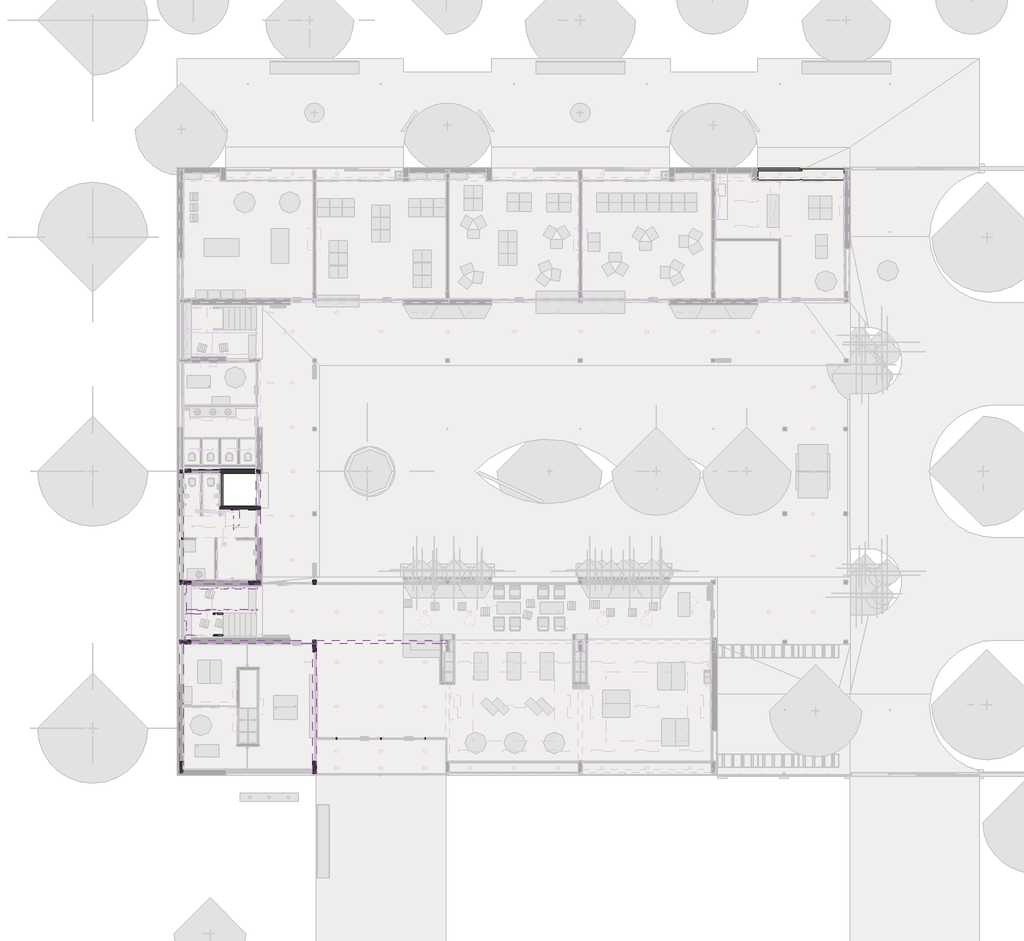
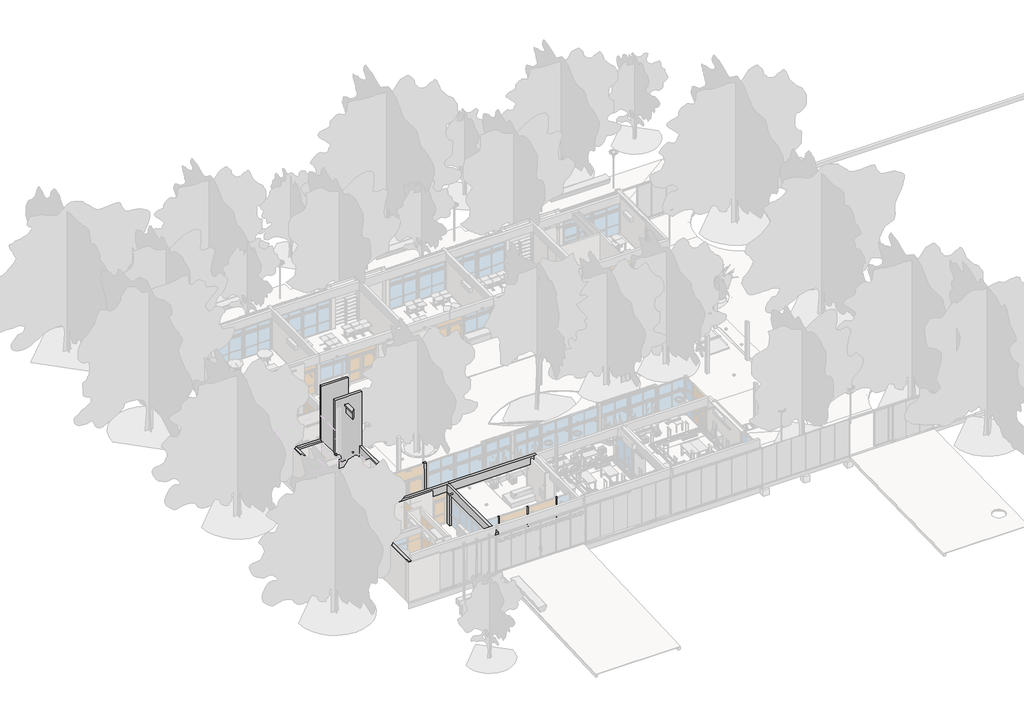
# One storey, part 12 of 22: 34 beams, 14 columns, 1 slab.
"""IFC4 building model written with IfcOpenShell, lengths in millimetres."""

from ifc_helpers import new_model, si_unit, point, frame, frame_2d, origin, origin_with_axes, place, context, project, spatial, polyline, circle_curve, trimmed, segment, composite_curve, outline, extrude, faceted_brep, transform, mapped, element, save
from components import perfil_upn_120_pet_55000a03, perfil_upn_120_pet_2a6b5f43, perfil_upn_120_pet_31115f7d, perfil_upn_120_pet_00277be9, perfil_upn_120_pet_e11cd0c3, perfil_upn_120_pet_56031ed0, perfil_upn_120_pet_017f4d01, perfil_upn_120_pet_e785cb7a

model = new_model("IFC4")

# Units and contexts
model_context = context("Model", 3, world=origin())
ifc_project = project(units=[si_unit("LENGTHUNIT", "METRE", prefix="MILLI")], contexts=[model_context])

# Site, building, storey
site = spatial("IfcSite", under=ifc_project)
building = spatial("IfcBuilding", under=site)
storey = spatial("IfcBuildingStorey", under=building, Name="PLanta baja", Elevation=0.0)

# Beams
placement = place(None, origin())
element("IfcBeam", 1, ObjectType="ARES-I-HA-Viga con aleta-PET : Viga pretil-15x75cm-aleta12x15cm-PET", at=placement, inside=storey, context=model_context, shape_type="Brep", body=[
    faceted_brep([(6034.4126343, 13970.2304035, 7010.0), (6034.4126343, 12960.2304035, 7010.0), (6024.4126343, 12950.2304035, 7020.0), (6024.4126343, 13970.2304035, 7020.0), (6014.4126343, 12940.2304035, 7010.0), (6014.4126343, 13970.2304035, 7010.0), (6004.4126343, 12930.2304035, 7010.0), (6004.4126343, 13500.2304035, 7010.0), (6004.4126343, 13850.2304035, 7010.0), (6004.4126343, 13970.2304035, 7010.0), (6004.4126343, 13970.2304035, 7160.0), (6004.4126343, 12930.2304035, 7160.0), (6004.4126343, 13500.2304035, 7160.0), (6004.4126343, 13850.2304035, 7160.0), (6274.4126343, 13970.2304035, 7160.0), (6274.4126343, 13200.2304035, 7160.0), (6274.4126343, 13850.2304035, 7160.0), (6274.4126343, 13200.2304035, 6410.0), (6274.4126343, 13970.2304035, 6410.0), (6274.4126343, 13970.2304035, 7010.0), (6124.4126343, 13050.2304035, 6410.0), (6124.4126343, 13970.2304035, 6410.0), (6124.4126343, 13050.2304035, 6570.0), (6124.4126343, 13050.2304035, 7010.0), (6124.4126343, 13970.2304035, 7010.0), (6124.4126343, 13970.2304035, 6570.0)], [[[0, 1, 2, 3]], [[3, 2, 4, 5]], [[5, 4, 6, 7, 8, 9]], [[10, 9, 8, 7, 6, 11, 12, 13]], [[14, 10, 13, 12, 11, 15, 16]], [[17, 18, 19, 14, 16, 15]], [[18, 17, 20, 21]], [[21, 20, 22, 23, 24, 25]], [[1, 0, 24, 23]], [[0, 3, 5, 9, 10, 14, 19, 18, 21, 25, 24]], [[1, 23, 22, 20, 17, 15, 11, 6, 4, 2]]]),
])
perfil_upn_120_pet_shape = perfil_upn_120_pet_55000a03(model_context)
element("IfcBeam", 2, ObjectType="ARES-I-AC-UPN-Perfil acero-PET : Perfil UPN-120-PET", at=placement, inside=storey, context=model_context, shape_type="MappedRepresentation", body=[
    mapped(perfil_upn_120_pet_shape, transform((3910.6625244, 8576.2304035, 1673.8421053), x_axis=(-1.0, 0.0, 0.0), y_axis=(0.0, -1.0, 0.0), z_axis=(0.0, 0.0, 1.0))),
])
perfil_upn_120_pet_2_shape = perfil_upn_120_pet_2a6b5f43(model_context)
element("IfcBeam", 3, ObjectType="ARES-I-AC-UPN-Perfil acero-PET : Perfil UPN-120-PET", at=placement, inside=storey, context=model_context, shape_type="MappedRepresentation", body=[
    mapped(perfil_upn_120_pet_2_shape, transform((5740.2815783, 8576.2304035, 782.5278227), x_axis=(0.8547743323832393, 0.0, -0.518999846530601), y_axis=(0.0, 1.0, 0.0), z_axis=(0.5189998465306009, 0.0, 0.8547743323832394))),
])
perfil_upn_120_pet_3_shape = perfil_upn_120_pet_31115f7d(model_context)
element("IfcBeam", 4, ObjectType="ARES-I-AC-UPN-Perfil acero-PET : Perfil UPN-120-PET", at=placement, inside=storey, context=model_context, shape_type="MappedRepresentation", body=[
    mapped(perfil_upn_120_pet_3_shape, transform((3910.6625244, 7484.2304035, 1673.8421053), x_axis=(-1.0, 0.0, 0.0), y_axis=(0.0, -1.0, 0.0), z_axis=(0.0, 0.0, 1.0))),
])
perfil_upn_120_pet_4_shape = perfil_upn_120_pet_00277be9(model_context)
element("IfcBeam", 5, ObjectType="ARES-I-AC-UPN-Perfil acero-PET : Perfil UPN-120-PET", at=placement, inside=storey, context=model_context, shape_type="MappedRepresentation", body=[
    mapped(perfil_upn_120_pet_4_shape, transform((5740.2815783, 7484.2304035, 782.5278227), x_axis=(0.8547743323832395, 0.0, -0.5189998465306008), y_axis=(0.0, 1.0, 0.0), z_axis=(0.5189998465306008, 0.0, 0.8547743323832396))),
])
perfil_upn_120_pet_5_shape = perfil_upn_120_pet_e11cd0c3(model_context)
element("IfcBeam", 6, ObjectType="ARES-I-AC-UPN-Perfil acero-PET : Perfil UPN-120-PET", at=placement, inside=storey, context=model_context, shape_type="MappedRepresentation", body=[
    mapped(perfil_upn_120_pet_5_shape, transform((4217.871391, 9881.2304035, 1673.8421053), x_axis=(-1.0, 0.0, 0.0), y_axis=(0.0, -1.0, 0.0), z_axis=(0.0, 0.0, 1.0))),
])
perfil_upn_120_pet_6_shape = perfil_upn_120_pet_56031ed0(model_context)
element("IfcBeam", 7, ObjectType="ARES-I-AC-UPN-Perfil acero-PET : Perfil UPN-120-PET", at=placement, inside=storey, context=model_context, shape_type="MappedRepresentation", body=[
    mapped(perfil_upn_120_pet_6_shape, transform((6062.1716203, 9881.2304035, 2367.281948), x_axis=(0.8547306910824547, 0.0, 0.5190717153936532), y_axis=(0.0, 1.0000000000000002, 0.0), z_axis=(-0.5190717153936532, 0.0, 0.8547306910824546))),
])
perfil_upn_120_pet_7_shape = perfil_upn_120_pet_017f4d01(model_context)
element("IfcBeam", 8, ObjectType="ARES-I-AC-UPN-Perfil acero-PET : Perfil UPN-120-PET", at=placement, inside=storey, context=model_context, shape_type="MappedRepresentation", body=[
    mapped(perfil_upn_120_pet_7_shape, transform((4112.4902739, 8789.2304035, 1673.8421053), x_axis=(-1.0, 0.0, 0.0), y_axis=(0.0, -1.0, 0.0), z_axis=(0.0, 0.0, 1.0))),
])
perfil_upn_120_pet_8_shape = perfil_upn_120_pet_e785cb7a(model_context)
element("IfcBeam", 9, ObjectType="ARES-I-AC-UPN-Perfil acero-PET : Perfil UPN-120-PET", at=placement, inside=storey, context=model_context, shape_type="MappedRepresentation", body=[
    mapped(perfil_upn_120_pet_8_shape, transform((5899.0301815, 8789.2304035, 2268.207342), x_axis=(0.8547306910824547, 0.0, 0.5190717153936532), y_axis=(0.0, 1.0000000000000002, 0.0), z_axis=(-0.5190717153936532, 0.0, 0.8547306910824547))),
])
element("IfcBeam", 10, ObjectType="ARES-I-AC-UPN-Perfil acero-PET : Perfil UPN-140-PET", at=placement, inside=storey, context=model_context, shape_type="SweptSolid", body=[
    extrude(outline(composite_curve([segment(polyline([(1733.8421053, 3549.7173693), (1733.8421053, 3489.7173693), (1730.8580797, 3489.7173693)]), True, "CONTINUOUS"), segment(trimmed(circle_curve(frame_2d((1730.8580797, 3494.7173693)), 5.0), [point((1730.8580797, 3489.7173693))], [point((1725.8740034, 3494.3186432))], False, "CARTESIAN"), True, "CONTINUOUS"), segment(polyline([(1725.8740034, 3494.3186432), (1722.7383091, 3533.5148215)]), True, "CONTINUOUS"), segment(trimmed(circle_curve(frame_2d((1712.7701563, 3532.7173693)), 10.0), [point((1722.7383091, 3533.5148215))], [point((1712.7701563, 3542.7173693))], True, "CARTESIAN"), True, "CONTINUOUS"), segment(polyline([(1712.7701563, 3542.7173693), (1614.9140542, 3542.7173693)]), True, "CONTINUOUS"), segment(trimmed(circle_curve(frame_2d((1614.9140542, 3532.7173693)), 10.0), [point((1614.9140542, 3542.7173693))], [point((1604.9459014, 3533.5148215))], True, "CARTESIAN"), True, "CONTINUOUS"), segment(polyline([(1604.9459014, 3533.5148215), (1601.8102072, 3494.3186432)]), True, "CONTINUOUS"), segment(trimmed(circle_curve(frame_2d((1596.8261308, 3494.7173693)), 5.0), [point((1601.8102072, 3494.3186432))], [point((1596.8261308, 3489.7173693))], False, "CARTESIAN"), True, "CONTINUOUS"), segment(polyline([(1596.8261308, 3489.7173693), (1593.8421053, 3489.7173693), (1593.8421053, 3549.7173693), (1733.8421053, 3549.7173693)]), True, "CONTINUOUS")], self_intersect=False)), frame((0.0, 7219.2304035, 0.0), z_axis=(0.0, 1.0, 0.0), x_axis=(0.0, 0.0, 1.0)), (0.0, 0.0, 1.0), 2901.0),
])
element("IfcBeam", 11, ObjectType="ARES-I-HA-Viga rectangular-PET : Viga-15x112cm-PET", at=placement, inside=storey, context=model_context, shape_type="Brep", body=[
    faceted_brep([(7218.7173694, 14170.2304035, -80.0), (7368.7173694, 14170.2304035, -80.0), (7368.7173694, 15870.2304035, -80.0), (7218.7173694, 15870.2304035, -80.0), (7218.7173694, 14170.2304035, -1200.0), (7218.7173694, 14170.2304035, -1100.0), (7218.7173694, 15870.2304035, -1100.0), (7218.7173694, 15870.2304035, -1200.0), (7368.7173694, 14170.2304035, -1200.0), (7368.7173694, 15870.2304035, -1200.0)], [[[0, 1, 2, 3]], [[4, 5, 0, 3, 6, 7]], [[8, 4, 7, 9]], [[1, 8, 9, 2]], [[2, 9, 7, 6, 3]], [[1, 0, 5, 4, 8]]]),
])
element("IfcBeam", 12, ObjectType="ARES-I-HA-Viga rectangular-PET : Viga-15x112cm-PET", at=placement, inside=storey, context=model_context, shape_type="Brep", body=[
    faceted_brep([(5418.7173693, 15870.2304035, -80.0), (5268.7173693, 15870.2304035, -80.0), (5268.7173693, 14170.2304035, -80.0), (5418.7173693, 14170.2304035, -80.0), (5268.7173693, 15870.2304035, -300.0), (5268.7173693, 15870.2304035, -430.0), (5268.7173693, 15870.2304035, -1200.0), (5268.7173693, 14170.2304035, -1200.0), (5268.7173693, 14170.2304035, -430.0), (5268.7173693, 14170.2304035, -300.0), (5418.7173693, 14170.2304035, -1200.0), (5418.7173693, 15870.2304035, -1200.0), (5418.7173693, 15870.2304035, -1100.0), (5418.7173693, 14170.2304035, -1100.0)], [[[0, 1, 2, 3]], [[2, 1, 4, 5, 6, 7, 8, 9]], [[10, 7, 6, 11]], [[11, 12, 0, 3, 13, 10]], [[1, 0, 12, 11, 6, 5, 4]], [[3, 2, 9, 8, 7, 10, 13]]]),
])
element("IfcBeam", 13, ObjectType="ARES-I-HA-Viga rectangular-PET : Viga-15x36cm-PET", at=placement, inside=storey, context=model_context, shape_type="Brep", body=[
    faceted_brep([(10288.7173694, 3843.5637368, -50.0), (10288.7173694, 3693.5637368, -50.0), (13563.7173693, 3693.5637368, -50.0), (13713.7173693, 3693.5637368, -50.0), (16988.7173694, 3693.5637368, -50.0), (16988.7173694, 3843.5637368, -50.0), (13713.7173693, 3843.5637368, -50.0), (13563.7173693, 3843.5637368, -50.0), (10288.7173694, 3693.5637368, -410.0), (13563.7173693, 3693.5637368, -410.0), (13713.7173693, 3693.5637368, -410.0), (16988.7173694, 3693.5637368, -410.0), (16988.7173694, 3693.5637368, -160.0), (10288.7173694, 3693.5637368, -160.0), (10288.7173694, 3843.5637368, -410.0), (13563.7173693, 3843.5637368, -410.0), (13713.7173693, 3843.5637368, -410.0), (16988.7173694, 3843.5637368, -410.0), (10288.7173694, 3843.5637368, -160.0), (16988.7173694, 3843.5637368, -160.0)], [[[0, 1, 2, 3, 4, 5, 6, 7]], [[8, 9, 10, 11, 12, 4, 3, 2, 1, 13]], [[8, 14, 15, 16, 17, 11, 10, 9]], [[17, 16, 15, 14, 18, 0, 7, 6, 5, 19]], [[1, 0, 18, 14, 8, 13]], [[5, 4, 12, 11, 17, 19]]]),
])
element("IfcBeam", 14, ObjectType="ARES-I-HA-Viga rectangular-PET : Viga-15x36cm-PET", at=placement, inside=storey, context=model_context, shape_type="Brep", body=[
    faceted_brep([(13713.7173693, 3693.5637368, -50.0), (13563.7173693, 3693.5637368, -50.0), (13563.7173693, 520.2304035, -50.0), (13713.7173693, 520.2304035, -50.0), (13563.7173693, 3693.5637368, -160.0), (13563.7173693, 3693.5637368, -410.0), (13563.7173693, 520.2304035, -410.0), (13563.7173693, 520.2304035, -160.0), (13713.7173693, 3693.5637368, -410.0), (13713.7173693, 520.2304035, -410.0), (13713.7173693, 520.2304035, -160.0), (13713.7173693, 3693.5637368, -160.0)], [[[0, 1, 2, 3]], [[2, 1, 4, 5, 6, 7]], [[5, 8, 9, 6]], [[0, 3, 10, 9, 8, 11]], [[8, 5, 4, 1, 0, 11]], [[3, 2, 7, 6, 9, 10]]]),
    faceted_brep([(13563.7173693, 3843.5637368, -410.0), (13713.7173693, 3843.5637368, -410.0), (13713.7173693, 3843.5637368, -160.0), (13713.7173693, 3843.5637368, -50.0), (13563.7173693, 3843.5637368, -50.0), (13563.7173693, 3843.5637368, -160.0), (13563.7173693, 7020.2304035, -50.0), (13563.7173693, 7020.2304035, -160.0), (13563.7173693, 7020.2304035, -410.0), (13713.7173693, 7020.2304035, -410.0), (13713.7173693, 7020.2304035, -160.0), (13713.7173693, 7020.2304035, -50.0)], [[[0, 1, 2, 3, 4, 5]], [[4, 6, 7, 8, 0, 5]], [[1, 0, 8, 9]], [[1, 9, 10, 11, 3, 2]], [[4, 3, 11, 6]], [[9, 8, 7, 6, 11, 10]]]),
])
element("IfcBeam", 15, ObjectType="ARES-I-HA-Viga rectangular-PET : Viga-15x36cm-PET", at=placement, inside=storey, context=model_context, shape_type="Brep", body=[
    faceted_brep([(10088.7173694, 3693.5637368, -50.0), (10088.7173694, 3843.5637368, -50.0), (6813.7173693, 3843.5637368, -50.0), (6663.7173693, 3843.5637368, -50.0), (3388.7173693, 3843.5637368, -50.0), (3388.7173693, 3693.5637368, -50.0), (6663.7173693, 3693.5637368, -50.0), (6813.7173693, 3693.5637368, -50.0), (3388.7173693, 3693.5637368, -410.0), (3398.7173694, 3693.5637368, -410.0), (6663.7173693, 3693.5637368, -410.0), (6813.7173693, 3693.5637368, -410.0), (10088.7173694, 3693.5637368, -410.0), (10088.7173694, 3693.5637368, -160.0), (3388.7173693, 3693.5637368, -160.0), (3388.7173693, 3693.5637368, -241.3422496), (10088.7173694, 3843.5637368, -410.0), (3388.7173693, 3843.5637368, -410.0), (3398.7173694, 3843.5637368, -410.0), (6663.7173693, 3843.5637368, -410.0), (6813.7173693, 3843.5637368, -410.0), (3388.7173693, 3843.5637368, -241.3422496), (3388.7173693, 3843.5637368, -160.0), (10088.7173694, 3843.5637368, -160.0)], [[[0, 1, 2, 3, 4, 5, 6, 7]], [[8, 9, 10, 11, 12, 13, 0, 7, 6, 5, 14, 15]], [[16, 12, 11, 10, 9, 8, 17, 18, 19, 20]], [[16, 20, 19, 18, 17, 21, 22, 4, 3, 2, 1, 23]], [[1, 0, 13, 12, 16, 23]], [[5, 4, 22, 21, 17, 8, 15, 14]]]),
])
element("IfcBeam", 16, ObjectType="ARES-I-HA-Viga rectangular-PET : Viga-15x36cm-PET", at=placement, inside=storey, context=model_context, shape_type="Brep", body=[
    faceted_brep([(6813.7173693, 3693.5637368, -50.0), (6663.7173693, 3693.5637368, -50.0), (6663.7173693, 520.2304035, -50.0), (6813.7173693, 520.2304035, -50.0), (6663.7173693, 3693.5637368, -160.0), (6663.7173693, 3693.5637368, -410.0), (6663.7173693, 520.2304035, -410.0), (6663.7173693, 520.2304035, -160.0), (6813.7173693, 3693.5637368, -410.0), (6813.7173693, 520.2304035, -410.0), (6813.7173693, 520.2304035, -160.0), (6813.7173693, 3693.5637368, -160.0)], [[[0, 1, 2, 3]], [[2, 1, 4, 5, 6, 7]], [[5, 8, 9, 6]], [[0, 3, 10, 9, 8, 11]], [[8, 5, 4, 1, 0, 11]], [[3, 2, 7, 6, 9, 10]]]),
    faceted_brep([(6663.7173693, 3843.5637368, -410.0), (6813.7173693, 3843.5637368, -410.0), (6813.7173693, 3843.5637368, -160.0), (6813.7173693, 3843.5637368, -50.0), (6663.7173693, 3843.5637368, -50.0), (6663.7173693, 3843.5637368, -160.0), (6663.7173693, 7020.2304035, -50.0), (6663.7173693, 7020.2304035, -160.0), (6663.7173693, 7020.2304035, -410.0), (6813.7173693, 7020.2304035, -410.0), (6813.7173693, 7020.2304035, -160.0), (6813.7173693, 7020.2304035, -50.0)], [[[0, 1, 2, 3, 4, 5]], [[4, 6, 7, 8, 0, 5]], [[1, 0, 8, 9]], [[1, 9, 10, 11, 3, 2]], [[4, 3, 11, 6]], [[9, 8, 7, 6, 11, 10]]]),
])
element("IfcBeam", 17, ObjectType="ARES-I-HA-Viga rectangular-PET : Viga-20x36cm-PET", at=placement, inside=storey, context=model_context, shape_type="Brep", body=[
    faceted_brep([(10088.7173694, 10120.2304035, -50.0), (10088.7173694, 10320.2304035, -50.0), (7368.7173694, 10320.2304035, -50.0), (7368.7173694, 10120.2304035, -50.0), (7368.7173694, 10120.2304035, -410.0), (10088.7173694, 10120.2304035, -410.0), (10088.7173694, 10120.2304035, -160.0), (7368.7173694, 10120.2304035, -160.0), (10088.7173694, 10320.2304035, -410.0), (7368.7173694, 10320.2304035, -410.0), (10088.7173694, 10320.2304035, -80.0), (10088.7173694, 10320.2304035, -190.0), (7368.7173694, 10320.2304035, -190.0), (7368.7173694, 10320.2304035, -80.0)], [[[0, 1, 2, 3]], [[4, 5, 6, 0, 3, 7]], [[8, 5, 4, 9]], [[1, 10, 11, 8, 9, 12, 13, 2]], [[5, 8, 11, 10, 1, 0, 6]], [[9, 4, 7, 3, 2, 13, 12]]]),
])
element("IfcBeam", 18, ObjectType="ARES-I-HA-Viga rectangular-PET : Viga-20x40cm-PET", at=placement, inside=storey, context=model_context, shape_type="Brep", body=[
    faceted_brep([(5268.7173694, 13970.2304035, -300.0), (5268.7173694, 14170.2304035, -300.0), (5268.1214583, 14170.2304035, -300.0), (3388.7173693, 14170.2304035, -300.0), (3388.7173693, 13970.2304035, -300.0), (5268.1214583, 13970.2304035, -300.0), (5268.7173694, 13970.2304035, -700.0), (3388.7173693, 13970.2304035, -430.0), (3388.7173693, 13970.2304035, -700.0), (5268.7173694, 14170.2304035, -700.0), (3388.7173693, 14170.2304035, -700.0), (5268.1214583, 14170.2304035, -700.0), (5268.7173694, 14170.2304035, -430.0), (3388.7173693, 14170.2304035, -430.0)], [[[0, 1, 2, 3, 4, 5]], [[6, 0, 5, 4, 7, 8]], [[9, 6, 8, 10, 11]], [[1, 12, 9, 11, 10, 13, 3, 2]], [[1, 0, 6, 9, 12]], [[4, 3, 13, 10, 8, 7]]]),
])
element("IfcBeam", 19, ObjectType="ARES-I-HA-Viga rectangular-PET : Viga-20x40cm-PET", at=placement, inside=storey, context=model_context, shape_type="Brep", body=[
    faceted_brep([(5268.7173693, 15870.2304035, -300.0), (5268.7173693, 16070.2304035, -300.0), (3788.7173694, 16070.2304035, -300.0), (3398.7173693, 16070.2304035, -300.0), (3388.7173694, 16070.2304035, -300.0), (3388.7173693, 15870.2304035, -300.0), (3788.7173694, 15870.2304035, -300.0), (5268.1214583, 15870.2304035, -300.0), (3388.7173693, 15870.2304035, -430.0), (3388.7173693, 15870.2304035, -700.0), (5268.1214583, 15870.2304035, -700.0), (5268.7173693, 15870.2304035, -700.0), (5268.7173693, 15870.2304035, -430.0), (5268.7173693, 16070.2304035, -700.0), (3388.7173693, 16070.2304035, -700.0), (3398.7173693, 16070.2304035, -700.0), (5268.7173693, 16070.2304035, -430.0), (3388.7173693, 16070.2304035, -430.0)], [[[0, 1, 2, 3, 4, 5, 6, 7]], [[0, 7, 6, 5, 8, 9, 10, 11, 12]], [[13, 11, 10, 9, 14, 15]], [[1, 16, 13, 15, 14, 17, 4, 3, 2]], [[1, 0, 12, 11, 13, 16]], [[5, 4, 17, 14, 9, 8]]]),
])
element("IfcBeam", 20, ObjectType="ARES-I-HA-Viga rectangular-PET : Viga-20x48cm-PET", at=placement, inside=storey, context=model_context, shape_type="Brep", body=[
    faceted_brep([(7368.7173694, 13970.2304035, -80.0), (7168.7173694, 13970.2304035, -80.0), (7168.7173694, 10320.2304035, -80.0), (7368.7173694, 10320.2304035, -80.0), (7368.7173694, 13670.2304035, -80.0), (7368.7173694, 13870.2304035, -80.0), (7168.7173694, 13970.2304035, -300.0), (7168.7173694, 13970.2304035, -430.0), (7168.7173694, 13970.2304035, -560.0), (7168.7173694, 10320.2304035, -560.0), (7168.7173694, 10320.2304035, -430.0), (7168.7173694, 10320.2304035, -300.0), (7343.7173694, 13970.2304035, -560.0), (7368.7173694, 13970.2304035, -560.0), (7368.7173694, 10320.2304035, -560.0), (7368.7173694, 13970.2304035, -540.0), (7368.7173694, 13970.2304035, -221.0235731), (7368.7173694, 10320.2304035, -190.0)], [[[0, 1, 2, 3, 4, 5]], [[1, 6, 7, 8, 9, 10, 11, 2]], [[8, 12, 13, 14, 9]], [[13, 15, 16, 0, 5, 4, 3, 17, 14]], [[3, 2, 11, 10, 9, 14, 17]], [[0, 16, 15, 13, 12, 8, 7, 6, 1]]]),
])
element("IfcBeam", 21, ObjectType="ARES-I-HA-Viga rectangular-PET : Viga-20x50cm-PET", at=placement, inside=storey, context=model_context, shape_type="Brep", body=[
    faceted_brep([(10288.7173694, 10120.2304035, -50.0), (10088.7173694, 10120.2304035, -50.0), (10088.7173694, 7220.2304035, -50.0), (10288.7173694, 7220.2304035, -50.0), (10088.7173694, 10120.2304035, -160.0), (10088.7173694, 10120.2304035, -510.0), (10088.7173694, 10120.2304035, -550.0), (10088.7173694, 7220.2304035, -550.0), (10088.7173694, 7220.2304035, -510.0), (10088.7173694, 7220.2304035, -160.0), (10288.7173694, 7220.2304035, -550.0), (10288.7173694, 10120.2304035, -550.0), (10288.7173694, 7220.2304035, -160.0), (10288.7173694, 7220.2304035, -510.0), (10288.7173694, 10120.2304035, -510.0), (10288.7173694, 10120.2304035, -160.0)], [[[0, 1, 2, 3]], [[2, 1, 4, 5, 6, 7, 8, 9]], [[10, 7, 6, 11]], [[0, 3, 12, 13, 10, 11, 14, 15]], [[7, 10, 13, 12, 3, 2, 9, 8]], [[1, 0, 15, 14, 11, 6, 5, 4]]]),
])
element("IfcBeam", 22, ObjectType="ARES-I-HA-Viga rectangular-PET : Viga-20x51cm-PET", at=placement, inside=storey, context=model_context, shape_type="Brep", body=[
    faceted_brep([(7168.7173694, 7220.2304035, -50.0), (7368.7173694, 7220.2304035, -50.0), (7368.7173694, 10120.2304035, -50.0), (7168.7173694, 10120.2304035, -50.0), (7168.7173694, 7220.2304035, -560.0), (7168.7173694, 7220.2304035, -450.0), (7168.7173694, 10120.2304035, -450.0), (7168.7173694, 10120.2304035, -560.0), (7368.7173694, 7220.2304035, -560.0), (7368.7173694, 10120.2304035, -560.0), (7368.7173694, 10120.2304035, -510.0), (7368.7173694, 10120.2304035, -160.0), (7368.7173694, 7220.2304035, -160.0), (7368.7173694, 7220.2304035, -510.0)], [[[0, 1, 2, 3]], [[4, 5, 0, 3, 6, 7]], [[8, 4, 7, 9]], [[8, 9, 10, 11, 2, 1, 12, 13]], [[4, 8, 13, 12, 1, 0, 5]], [[7, 6, 3, 2, 11, 10, 9]]]),
])
element("IfcBeam", 23, ObjectType="ARES-I-HA-Viga rectangular-PET : Viga-20x65cm-PET", at=placement, inside=storey, context=model_context, shape_type="Brep", body=[
    faceted_brep([(10288.7173694, 7080.2304035, -50.0), (10088.7173694, 7080.2304035, -50.0), (10088.7173694, 7020.2304035, -50.0), (10088.7173694, 3843.5637368, -50.0), (10088.7173694, 3693.5637368, -50.0), (10088.7173694, 520.2304035, -50.0), (10288.7173694, 520.2304035, -50.0), (10288.7173694, 3693.5637368, -50.0), (10288.7173694, 3843.5637368, -50.0), (10288.7173694, 7020.2304035, -50.0), (10088.7173694, 7080.2304035, -700.0), (10088.7173694, 7020.2304035, -700.0), (10088.7173694, 520.2304035, -700.0), (10088.7173694, 520.2304035, -510.0), (10088.7173694, 520.2304035, -160.0), (10288.7173694, 7080.2304035, -700.0), (10288.7173694, 7020.2304035, -700.0), (10288.7173694, 520.2304035, -700.0), (10288.7173694, 520.2304035, -160.0), (10288.7173694, 520.2304035, -510.0)], [[[0, 1, 2, 3, 4, 5, 6, 7, 8, 9]], [[1, 10, 11, 12, 13, 14, 5, 4, 3, 2]], [[10, 15, 16, 17, 12, 11]], [[15, 0, 9, 8, 7, 6, 18, 19, 17, 16]], [[6, 5, 14, 13, 12, 17, 19, 18]], [[0, 15, 10, 1]]]),
])
element("IfcBeam", 24, ObjectType="ARES-I-HA-Viga rectangular-PET : Viga-20x65cm-PET", at=placement, inside=storey, context=model_context, shape_type="Brep", body=[
    faceted_brep([(3388.7173694, 10320.2304035, -50.0), (3388.7173694, 10120.2304035, -50.0), (7168.7173694, 10120.2304035, -50.0), (7368.7173694, 10120.2304035, -50.0), (7368.7173694, 10320.2304035, -50.0), (7168.7173694, 10320.2304035, -50.0), (3388.7173694, 10120.2304035, -450.0), (3388.7173694, 10120.2304035, -560.0), (3388.7173694, 10120.2304035, -700.0), (7368.7173694, 10120.2304035, -700.0), (7368.7173694, 10120.2304035, -560.0), (7368.7173694, 10120.2304035, -510.0), (7368.7173694, 10120.2304035, -410.0), (3388.7173694, 10320.2304035, -700.0), (7168.7173694, 10320.2304035, -700.0), (7368.7173694, 10320.2304035, -700.0), (3388.7173694, 10320.2304035, -430.0), (3388.7173694, 10320.2304035, -300.0), (7368.7173694, 10320.2304035, -80.0), (7368.7173694, 10320.2304035, -410.0), (7368.7173694, 10320.2304035, -540.0), (7368.7173694, 10320.2304035, -560.0)], [[[0, 1, 2, 3, 4, 5]], [[1, 6, 7, 8, 9, 10, 11, 12, 3, 2]], [[8, 13, 14, 15, 9]], [[13, 16, 17, 0, 5, 4, 18, 19, 20, 21, 15, 14]], [[0, 17, 16, 13, 8, 7, 6, 1]], [[4, 3, 12, 11, 10, 9, 15, 21, 20, 19, 18]]]),
])
element("IfcBeam", 25, ObjectType="ARES-I-HA-Viga rectangular-PET : Viga-20x66cm-PET", at=placement, inside=storey, context=model_context, shape_type="Brep", body=[
    faceted_brep([(3188.7173693, 7220.2304035, 3260.0), (3188.7173693, 7020.2304035, 3260.0), (3388.7173693, 7020.2304035, 3260.0), (3788.7173693, 7020.2304035, 3260.0), (10088.7173694, 7020.2304035, 3260.0), (10288.7173694, 7020.2304035, 3260.0), (10288.7173694, 7220.2304035, 3260.0), (10088.7173694, 7220.2304035, 3260.0), (3838.7173693, 7220.2304035, 3260.0), (3788.7173693, 7220.2304035, 3260.0), (3388.7173693, 7220.2304035, 3260.0), (3188.7173693, 7020.2304035, 2600.0), (3388.7173693, 7020.2304035, 2600.0), (3788.7173693, 7020.2304035, 2600.0), (7168.7173694, 7020.2304035, 2600.0), (8938.7173694, 7020.2304035, 2600.0), (10088.7173694, 7020.2304035, 2600.0), (10288.7173694, 7020.2304035, 2600.0), (10288.7173694, 7020.2304035, 3100.0), (3188.7173693, 7020.2304035, 3100.0), (3188.7173693, 7220.2304035, 2600.0), (3788.7173693, 7220.2304035, 2600.0), (7168.7173694, 7220.2304035, 2600.0), (8938.7173694, 7220.2304035, 2600.0), (10088.7173694, 7220.2304035, 2600.0), (10288.7173694, 7220.2304035, 2600.0), (3188.7173693, 7220.2304035, 3100.0), (10288.7173694, 7220.2304035, 3100.0)], [[[0, 1, 2, 3, 4, 5, 6, 7, 8, 9, 10]], [[11, 12, 13, 14, 15, 16, 17, 18, 5, 4, 3, 2, 1, 19]], [[11, 20, 21, 22, 23, 24, 25, 17, 16, 15, 14, 13, 12]], [[25, 24, 23, 22, 21, 20, 26, 0, 10, 9, 8, 7, 6, 27]], [[1, 0, 26, 20, 11, 19]], [[6, 5, 18, 17, 25, 27]]]),
])
element("IfcBeam", 26, ObjectType="ARES-I-HA-Viga rectangular-PET : Viga-20x66cm-PET", at=placement, inside=storey, context=model_context, shape_type="Brep", body=[
    faceted_brep([(17188.7173694, 7020.2304035, 3260.0), (17188.7173694, 7220.2304035, 3260.0), (16988.7173694, 7220.2304035, 3260.0), (10288.7173694, 7220.2304035, 3260.0), (10288.7173694, 7020.2304035, 3260.0), (16988.7173694, 7020.2304035, 3260.0), (17188.7173694, 7020.2304035, 2600.0), (17188.7173694, 7020.2304035, 3100.0), (10288.7173694, 7020.2304035, 3100.0), (10288.7173694, 7020.2304035, 2600.0), (16703.0966893, 7020.2304035, 2600.0), (16818.0966893, 7020.2304035, 2600.0), (16988.7173694, 7020.2304035, 2600.0), (17188.7173694, 7220.2304035, 2600.0), (10288.7173694, 7220.2304035, 2600.0), (16703.0966893, 7220.2304035, 2600.0), (16818.0966893, 7220.2304035, 2600.0), (16988.7173694, 7220.2304035, 2600.0), (17188.7173694, 7220.2304035, 3100.0)], [[[0, 1, 2, 3, 4, 5]], [[6, 7, 0, 5, 4, 8, 9, 10, 11, 12]], [[13, 6, 12, 11, 10, 9, 14, 15, 16, 17]], [[1, 18, 13, 17, 16, 15, 14, 3, 2]], [[1, 0, 7, 6, 13, 18]], [[4, 3, 14, 9, 8]]]),
])
element("IfcBeam", 27, ObjectType="ARES-I-HA-Viga rectangular-PET : Viga-20x66cm-PET", at=placement, inside=storey, context=model_context, shape_type="Brep", body=[
    faceted_brep([(3388.7173693, 320.2304035, 3260.0), (3188.7173693, 320.2304035, 3260.0), (3188.7173693, 320.2304035, 3100.0), (3188.7173693, 320.2304035, 2600.0), (3388.7173693, 320.2304035, 2600.0), (3388.7173693, 320.2304035, 3100.0), (3388.7173693, 520.2304035, 3260.0), (3388.7173693, 920.2304035, 3260.0), (3388.7173693, 3685.2304035, 3260.0), (3388.7173693, 4015.2304035, 3260.0), (3388.7173693, 7020.2304035, 3260.0), (3188.7173693, 7020.2304035, 3260.0), (3188.7173693, 920.2304035, 3260.0), (3188.7173693, 7020.2304035, 2600.0), (3188.7173693, 4919.6164813, 2600.0), (3188.7173693, 920.2304035, 2600.0), (3388.7173693, 7020.2304035, 2600.0), (3388.7173693, 4919.6164813, 2600.0), (3388.7173693, 920.2304035, 2600.0), (3388.7173693, 7020.2304035, 3100.0)], [[[0, 1, 2, 3, 4, 5]], [[1, 0, 6, 7, 8, 9, 10, 11, 12]], [[2, 1, 12, 11, 13, 14, 15, 3]], [[4, 3, 15, 14, 13, 16, 17, 18]], [[5, 4, 18, 17, 16, 19, 10, 9, 8, 7, 6, 0]], [[11, 10, 19, 16, 13]]]),
])
element("IfcBeam", 28, ObjectType="ARES-I-HA-Viga rectangular-PET : Viga-20x66cm-PET", at=placement, inside=storey, context=model_context, shape_type="Brep", body=[
    faceted_brep([(10088.7173694, 320.2304035, 3260.0), (10288.7173694, 320.2304035, 3260.0), (10288.7173694, 520.2304035, 3260.0), (10288.7173694, 920.2304035, 3260.0), (10288.7173694, 6620.2304035, 3260.0), (10288.7173694, 7020.2304035, 3260.0), (10088.7173694, 7020.2304035, 3260.0), (10088.7173694, 6620.2304035, 3260.0), (10088.7173694, 920.2304035, 3260.0), (10088.7173694, 520.2304035, 3260.0), (10088.7173694, 320.2304035, 2600.0), (10088.7173694, 320.2304035, 3100.0), (10088.7173694, 7020.2304035, 3100.0), (10088.7173694, 7020.2304035, 2600.0), (10288.7173694, 320.2304035, 2600.0), (10288.7173694, 7020.2304035, 2600.0), (10288.7173694, 320.2304035, 3100.0), (10288.7173694, 7020.2304035, 3100.0)], [[[0, 1, 2, 3, 4, 5, 6, 7, 8, 9]], [[10, 11, 0, 9, 8, 7, 6, 12, 13]], [[14, 10, 13, 15]], [[1, 16, 14, 15, 17, 5, 4, 3, 2]], [[1, 0, 11, 10, 14, 16]], [[6, 5, 17, 15, 13, 12]]]),
])
element("IfcBeam", 29, ObjectType="ARES-I-HA-Viga rectangular-PET : Viga-20x66cm-PET", at=placement, inside=storey, context=model_context, shape_type="Brep", body=[
    faceted_brep([(3188.7173693, 10120.2304035, 3260.0), (3388.7173693, 10120.2304035, 3260.0), (3388.7173693, 10320.2304035, 3260.0), (3388.7173693, 15870.2304035, 3260.0), (3388.7173693, 16070.2304035, 3260.0), (3188.7173693, 16070.2304035, 3260.0), (3188.7173693, 15870.2304035, 3260.0), (3188.7173693, 10320.2304035, 3260.0), (3188.7173693, 16070.2304035, 3100.0), (3188.7173693, 16070.2304035, 2600.0), (3188.7173693, 15870.2304035, 2600.0), (3188.7173693, 13670.2304035, 2600.0), (3188.7173693, 10320.2304035, 2600.0), (3188.7173693, 10120.2304035, 2600.0), (3188.7173693, 10120.2304035, 3100.0), (3388.7173693, 10120.2304035, 2600.0), (3388.7173693, 16070.2304035, 2600.0), (3388.7173693, 15870.2304035, 2600.0), (3388.7173693, 13670.2304035, 2600.0), (3388.7173693, 10320.2304035, 2600.0), (3388.7173693, 16070.2304035, 3100.0), (3388.7173693, 10120.2304035, 3100.0)], [[[0, 1, 2, 3, 4, 5, 6, 7]], [[0, 7, 6, 5, 8, 9, 10, 11, 12, 13, 14]], [[15, 13, 12, 11, 10, 9, 16, 17, 18, 19]], [[15, 19, 18, 17, 16, 20, 4, 3, 2, 1, 21]], [[1, 0, 14, 13, 15, 21]], [[5, 4, 20, 16, 9, 8]]]),
])
element("IfcBeam", 30, ObjectType="ARES-I-HA-Viga rectangular-PET : Viga-20x66cm-PET", at=placement, inside=storey, context=model_context, shape_type="Brep", body=[
    faceted_brep([(7368.7173693, 10320.2304035, 3260.0), (7168.7173693, 10320.2304035, 3260.0), (7168.7173693, 10320.2304035, 3100.0), (7168.7173693, 10320.2304035, 2600.0), (7368.7173693, 10320.2304035, 2600.0), (7368.7173693, 10320.2304035, 3100.0), (7368.7173693, 13970.2304035, 3260.0), (7168.7173693, 13970.2304035, 3260.0), (7168.7173693, 13970.2304035, 3100.0), (7168.7173693, 13970.2304035, 2600.0), (7168.7173693, 12520.2304035, 2600.0), (7168.7173693, 10340.2304035, 2600.0), (7368.7173693, 13970.2304035, 2600.0), (7368.7173693, 12520.2304035, 2600.0), (7368.7173693, 10340.2304035, 2600.0)], [[[0, 1, 2, 3, 4, 5]], [[1, 0, 6, 7]], [[2, 1, 7, 8, 9, 10, 11, 3]], [[4, 3, 11, 10, 9, 12, 13, 14]], [[5, 4, 14, 13, 12, 6, 0]], [[7, 6, 12, 9, 8]]]),
])
element("IfcBeam", 31, ObjectType="ARES-I-HA-Viga rectangular-PET : Viga-20x66cm-PET", at=placement, inside=storey, context=model_context, shape_type="Brep", body=[
    faceted_brep([(7368.7173693, 10120.2304035, 3260.0), (7368.7173693, 10320.2304035, 3260.0), (7168.7173693, 10320.2304035, 3260.0), (6768.7173693, 10320.2304035, 3260.0), (3788.7173693, 10320.2304035, 3260.0), (3388.7173693, 10320.2304035, 3260.0), (3388.7173693, 10120.2304035, 3260.0), (3788.7173693, 10120.2304035, 3260.0), (3838.7173693, 10120.2304035, 3260.0), (6768.7173693, 10120.2304035, 3260.0), (7368.7173693, 10120.2304035, 2600.0), (7368.7173693, 10120.2304035, 3100.0), (3388.7173693, 10120.2304035, 2600.0), (3788.7173693, 10120.2304035, 2600.0), (5076.2173694, 10120.2304035, 2600.0), (6768.7173693, 10120.2304035, 2600.0), (7368.7173693, 10320.2304035, 2600.0), (3388.7173693, 10320.2304035, 2600.0), (3788.7173693, 10320.2304035, 2600.0), (5076.2173694, 10320.2304035, 2600.0), (6768.7173693, 10320.2304035, 2600.0), (7168.7173693, 10320.2304035, 2600.0), (7368.7173693, 10320.2304035, 3100.0), (3388.7173693, 10320.2304035, 3100.0)], [[[0, 1, 2, 3, 4, 5, 6, 7, 8, 9]], [[10, 11, 0, 9, 8, 7, 6, 12, 13, 14, 15]], [[16, 10, 15, 14, 13, 12, 17, 18, 19, 20, 21]], [[2, 1, 22, 16, 21, 20, 19, 18, 17, 23, 5, 4, 3]], [[1, 0, 11, 10, 16, 22]], [[6, 5, 23, 17, 12]]]),
])
element("IfcBeam", 32, ObjectType="ARES-I-HA-Viga rectangular-PET : Viga-20x66cm-PET", at=placement, inside=storey, context=model_context, shape_type="Brep", body=[
    faceted_brep([(5268.7173693, 15870.2304035, 3260.0), (5268.7173693, 16070.2304035, 3260.0), (3788.7173693, 16070.2304035, 3260.0), (3388.7173693, 16070.2304035, 3260.0), (3388.7173693, 15870.2304035, 3260.0), (3788.7173693, 15870.2304035, 3260.0), (5268.7173693, 15870.2304035, 2600.0), (5268.7173693, 15870.2304035, 3100.0), (3388.7173693, 15870.2304035, 3100.0), (3388.7173693, 15870.2304035, 2600.0), (3788.7173694, 15870.2304035, 2600.0), (5268.7173693, 16070.2304035, 2600.0), (5268.7173693, 16040.2304035, 2600.0), (3388.7173693, 16070.2304035, 2600.0), (3788.7173694, 16070.2304035, 2600.0), (5268.7173693, 16070.2304035, 3100.0), (3388.7173693, 16070.2304035, 3100.0)], [[[0, 1, 2, 3, 4, 5]], [[6, 7, 0, 5, 4, 8, 9, 10]], [[11, 12, 6, 10, 9, 13, 14]], [[1, 15, 11, 14, 13, 16, 3, 2]], [[6, 12, 11, 15, 1, 0, 7]], [[4, 3, 16, 13, 9, 8]]]),
])
element("IfcBeam", 33, ObjectType="ARES-I-HA-Viga rectangular-PET : Viga-20x66cm-PET", at=placement, inside=storey, context=model_context, shape_type="Brep", body=[
    faceted_brep([(7168.7173693, 15869.8932813, 3260.0), (7168.7173693, 14170.2304035, 3260.0), (7368.7173693, 14170.2304035, 3260.0), (7368.7173693, 15869.8932813, 3260.0), (7168.7173693, 15869.8932813, 2600.0), (7168.7173693, 14170.2304035, 2600.0), (7368.7173693, 15869.8932813, 2600.0), (7368.7173693, 14170.2304035, 2600.0), (7368.7173693, 14170.2304035, 3100.0), (7368.7173693, 15869.8932813, 3100.0)], [[[0, 1, 2, 3]], [[1, 0, 4, 5]], [[5, 4, 6, 7]], [[3, 2, 8, 7, 6, 9]], [[2, 1, 5, 7, 8]], [[6, 4, 0, 3, 9]]]),
])
element("IfcBeam", 34, ObjectType="ARES-I-HA-Viga rectangular-PET : Viga-30x36cm-PET", at=placement, inside=storey, context=model_context, shape_type="Brep", body=[
    faceted_brep([(14988.7173693, 10120.2304035, -410.0), (14688.7173693, 10120.2304035, -410.0), (14688.7173693, 10120.2304035, -160.0), (14688.7173693, 10120.2304035, -50.0), (14988.7173693, 10120.2304035, -50.0), (14988.7173693, 10120.2304035, -160.0), (14688.7173693, 7220.2304035, -50.0), (14988.7173693, 7220.2304035, -50.0), (14688.7173693, 7220.2304035, -410.0), (14688.7173693, 7220.2304035, -160.0), (14988.7173693, 7220.2304035, -410.0), (14988.7173693, 7220.2304035, -160.0)], [[[0, 1, 2, 3, 4, 5]], [[4, 3, 6, 7]], [[6, 3, 2, 1, 8, 9]], [[1, 0, 10, 8]], [[4, 7, 11, 10, 0, 5]], [[8, 10, 11, 7, 6, 9]]]),
])

# Columns
element("IfcColumn", 35, ObjectType="Parante aluminio : Parante aluminio 75x75 mm", at=placement, inside=storey, context=model_context, shape_type="SweptSolid", body=[
    extrude(outline(polyline([(13676.2173694, 2145.2304035), (13676.2173694, 2070.2304035), (13601.2173694, 2070.2304035), (13601.2173694, 2145.2304035), (13676.2173694, 2145.2304035)])), origin_with_axes(), (0.0, 0.0, 1.0), 3110.0),
])
element("IfcColumn", 36, ObjectType="Parante aluminio : Parante aluminio 75x75 mm", at=placement, inside=storey, context=model_context, shape_type="Brep", body=[
    faceted_brep([(15976.2173693, 2145.2304035, 0.0), (15976.2173693, 2070.2304035, 0.0), (15901.2173693, 2070.2304035, 0.0), (15901.2173693, 2145.2304035, 0.0), (15976.2173693, 2145.2304035, 3110.0), (15976.2173693, 2070.2304035, 3110.0), (15976.2173693, 2070.2304035, 3000.0), (15976.2173693, 2145.2304035, 3000.0), (15901.2173693, 2070.2304035, 3110.0), (15901.2173693, 2145.2304035, 3110.0)], [[[0, 1, 2, 3]], [[4, 5, 6, 1, 0, 7]], [[5, 8, 2, 1, 6]], [[8, 9, 3, 2]], [[9, 4, 7, 0, 3]], [[4, 9, 8, 5]]]),
])
element("IfcColumn", 37, ObjectType="Parante aluminio : Parante aluminio 75x75 mm", at=placement, inside=storey, context=model_context, shape_type="Brep", body=[
    faceted_brep([(11376.2173693, 2145.2304035, 0.0), (11376.2173693, 2070.2304035, 0.0), (11301.2173693, 2070.2304035, 0.0), (11301.2173693, 2145.2304035, 0.0), (11376.2173693, 2145.2304035, 3110.0), (11376.2173693, 2070.2304035, 3110.0), (11301.2173693, 2070.2304035, 3110.0), (11301.2173693, 2070.2304035, 3000.0), (11301.2173693, 2145.2304035, 3110.0), (11301.2173693, 2145.2304035, 3000.0)], [[[0, 1, 2, 3]], [[4, 5, 1, 0]], [[5, 6, 7, 2, 1]], [[6, 8, 9, 3, 2, 7]], [[8, 4, 0, 3, 9]], [[4, 8, 6, 5]]]),
])
element("IfcColumn", 38, ObjectType="Parante aluminio : Parante aluminio 100x100 mm", at=placement, inside=storey, context=model_context, shape_type="SweptSolid", body=[
    extrude(outline(polyline([(3413.7173694, 12520.2304035), (3413.7173694, 12420.2304035), (3313.7173694, 12420.2304035), (3313.7173694, 12520.2304035), (3413.7173694, 12520.2304035)])), origin_with_axes(), (0.0, 0.0, 1.0), 2610.0),
])
element("IfcColumn", 39, ObjectType="PIES-RECT-HA-PET : Pilar HA-20x20cm-PET", at=placement, inside=storey, context=model_context, shape_type="SweptSolid", body=[
    extrude(outline(polyline([(10288.7173693, 10320.2304035), (10288.7173693, 10120.2304035), (10088.7173693, 10120.2304035), (10088.7173693, 10320.2304035), (10288.7173693, 10320.2304035)])), frame((0.0, 0.0, -50.0), z_axis=(0.0, 0.0, 1.0), x_axis=(1.0, 0.0, 0.0)), (0.0, 0.0, 1.0), 3150.0),
])
element("IfcColumn", 40, ObjectType="PIES-RECT-HA-PET : Pilar HA-20x210cm-PET", at=placement, inside=storey, context=model_context, shape_type="Brep", body=[
    faceted_brep([(7368.7173693, 15870.2304035, 7760.0), (7368.7173693, 16070.2304035, 7760.0), (5268.7173693, 16070.2304035, 7760.0), (5268.7173693, 15870.2304035, 7760.0), (7368.7173693, 15870.2304035, -1200.0), (7218.7173694, 15870.2304035, -1200.0), (5418.7173693, 15870.2304035, -1200.0), (5268.7173693, 15870.2304035, -1200.0), (5268.7173693, 16070.2304035, -1200.0), (7368.7173693, 16070.2304035, -1200.0), (7368.7173693, 15870.2304035, 7160.0), (7368.7173693, 15870.2304035, 7010.0), (7368.7173693, 15870.2304035, 6570.0), (7368.7173693, 15870.2304035, 6410.0), (7368.7173693, 15870.2304035, 5910.0), (7368.7173693, 15870.2304035, 3260.0), (7368.7173693, 15870.2304035, 3100.0), (7368.7173693, 15870.2304035, -80.0), (7368.7173693, 16070.2304035, -80.0), (7368.7173693, 16070.2304035, 2600.0), (7368.7173693, 16070.2304035, 3100.0), (7368.7173693, 16070.2304035, 3260.0), (7368.7173693, 16070.2304035, 5910.0), (7368.7173693, 16070.2304035, 6410.0), (7368.7173693, 16070.2304035, 6570.0), (7368.7173693, 16070.2304035, 7010.0), (7368.7173693, 16070.2304035, 7160.0), (5268.7173693, 16070.2304035, -430.0), (5268.7173693, 16070.2304035, -300.0), (5268.7173693, 16070.2304035, -50.0), (5268.7173693, 16070.2304035, 2600.0), (5268.7173693, 16070.2304035, 3100.0), (5268.7173693, 16070.2304035, 3260.0), (5268.7173693, 16070.2304035, 5910.0), (5268.7173693, 16070.2304035, 6410.0), (5268.7173693, 16070.2304035, 6570.0), (5268.7173693, 16070.2304035, 7010.0), (5268.7173693, 16070.2304035, 7160.0), (5268.7173693, 15870.2304035, -430.0), (5268.7173693, 15870.2304035, -300.0), (5268.7173693, 15870.2304035, -80.0), (5268.7173693, 15870.2304035, 2600.0), (5268.7173693, 15870.2304035, 3100.0), (5268.7173693, 15870.2304035, 3260.0), (5268.7173693, 15870.2304035, 5910.0), (5268.7173693, 15870.2304035, 6410.0), (5268.7173693, 15870.2304035, 6570.0), (5268.7173693, 15870.2304035, 7010.0), (5268.7173693, 15870.2304035, 7160.0)], [[[0, 1, 2, 3]], [[4, 5, 6, 7, 8, 9]], [[1, 0, 10, 11, 12, 13, 14, 15, 16, 17, 4, 9, 18, 19, 20, 21, 22, 23, 24, 25, 26]], [[2, 1, 26, 25, 24, 23, 22, 21, 20, 19, 18, 9, 8, 27, 28, 29, 30, 31, 32, 33, 34, 35, 36, 37]], [[3, 2, 37, 36, 35, 34, 33, 32, 31, 30, 29, 28, 27, 8, 7, 38, 39, 40, 41, 42, 43, 44, 45, 46, 47, 48]], [[0, 3, 48, 47, 46, 45, 44, 43, 42, 41, 40, 39, 38, 7, 6, 5, 4, 17, 16, 15, 14, 13, 12, 11, 10]]]),
])
element("IfcColumn", 41, ObjectType="PIES-RECT-HA-PET : Pilar HA-20x210cm-PET", at=placement, inside=storey, context=model_context, shape_type="Brep", body=[
    faceted_brep([(7368.7173694, 13970.2304035, 7760.0), (7368.7173694, 14170.2304035, 7760.0), (5268.7173694, 14170.2304035, 7760.0), (5268.7173694, 13970.2304035, 7760.0), (7368.7173694, 13970.2304035, -1200.0), (5268.7173694, 13970.2304035, -1200.0), (5268.7173694, 14170.2304035, -1200.0), (5418.7173693, 14170.2304035, -1200.0), (7218.7173694, 14170.2304035, -1200.0), (7368.7173694, 14170.2304035, -1200.0), (7368.7173694, 13970.2304035, 7160.0), (7368.7173694, 13970.2304035, 7010.0), (7368.7173694, 13970.2304035, 6570.0), (7368.7173694, 13970.2304035, 6410.0), (7368.7173694, 13970.2304035, 5910.0), (7368.7173694, 13970.2304035, 3260.0), (7368.7173694, 13970.2304035, 3100.0), (7368.7173694, 13970.2304035, 2600.0), (7368.7173694, 13970.2304035, -80.0), (7368.7173694, 13970.2304035, -560.0), (7368.7173694, 14170.2304035, -80.0), (7368.7173694, 14170.2304035, 3100.0), (7368.7173694, 14170.2304035, 3260.0), (7368.7173694, 14170.2304035, 5910.0), (7368.7173694, 14170.2304035, 6410.0), (7368.7173694, 14170.2304035, 6570.0), (7368.7173694, 14170.2304035, 7010.0), (7368.7173694, 14170.2304035, 7160.0), (5268.7173694, 14170.2304035, -700.0), (5268.7173694, 14170.2304035, -430.0), (5268.7173694, 14170.2304035, -300.0), (5268.7173694, 14170.2304035, -80.0), (5268.7173694, 14170.2304035, 3100.0), (5363.7173693, 14170.2304035, 3100.0), (5363.7173693, 14170.2304035, 3260.0), (5268.7173694, 14170.2304035, 3260.0), (5268.7173694, 14170.2304035, 6410.0), (5268.7173694, 14170.2304035, 6570.0), (5268.7173694, 14170.2304035, 7010.0), (5268.7173694, 14170.2304035, 7160.0), (5268.7173694, 13970.2304035, 3260.0), (5268.7173694, 13970.2304035, 6410.0), (5268.7173694, 13970.2304035, 6570.0), (5268.7173694, 13970.2304035, 7010.0), (5268.7173694, 13970.2304035, 7160.0), (5363.7173693, 13970.2304035, 3260.0), (5363.7173693, 13970.2304035, 3100.0), (5268.7173694, 13970.2304035, 3100.0), (5268.7173694, 13970.2304035, -49.984323), (5268.7173694, 13970.2304035, -80.0), (5268.7173694, 13970.2304035, -300.0), (5268.7173694, 13970.2304035, -430.0), (5268.7173694, 13970.2304035, -700.0)], [[[0, 1, 2, 3]], [[4, 5, 6, 7, 8, 9]], [[1, 0, 10, 11, 12, 13, 14, 15, 16, 17, 18, 19, 4, 9, 20, 21, 22, 23, 24, 25, 26, 27]], [[2, 1, 27, 26, 25, 24, 23, 22, 21, 20, 9, 8, 7, 6, 28, 29, 30, 31, 32, 33, 34, 35, 36, 37, 38, 39]], [[3, 2, 39, 38, 37, 36, 35, 40, 41, 42, 43, 44]], [[0, 3, 44, 43, 42, 41, 40, 45, 46, 47, 48, 49, 50, 51, 52, 5, 4, 19, 18, 17, 16, 15, 14, 13, 12, 11, 10]], [[33, 32, 47, 46]], [[35, 34, 45, 40]], [[34, 33, 46, 45]], [[6, 5, 52, 51, 50, 49, 48, 47, 32, 31, 30, 29, 28]]]),
])
element("IfcColumn", 42, ObjectType="PIES-RECT-HA-PET : Pilar HA-20x60cm-PET", at=placement, inside=storey, context=model_context, shape_type="Brep", body=[
    faceted_brep([(3388.7173693, 920.2304035, 2600.0), (3188.7173693, 920.2304035, 2600.0), (3188.7173693, 320.2304035, 2600.0), (3388.7173693, 320.2304035, 2600.0), (3388.7173693, 920.2304035, -50.0), (3388.7173693, 520.2304035, -50.0), (3388.7173693, 510.2304035, -50.0), (3388.7173693, 320.2304035, -50.0), (3188.7173693, 320.2304035, -50.0), (3188.7173693, 510.2304035, -50.0), (3188.7173693, 920.2304035, -50.0)], [[[0, 1, 2, 3]], [[4, 5, 6, 7, 8, 9, 10]], [[1, 0, 4, 10]], [[2, 1, 10, 9, 8]], [[3, 2, 8, 7]], [[0, 3, 7, 6, 5, 4]]]),
])
element("IfcColumn", 43, ObjectType="PIES-RECT-HA-PET : Pilar HA-20x60cm-PET", at=placement, inside=storey, context=model_context, shape_type="SweptSolid", body=[
    extrude(outline(polyline([(10288.7173694, 920.2304035), (10288.7173694, 320.2304035), (10088.7173694, 320.2304035), (10088.7173694, 920.2304035), (10288.7173694, 920.2304035)])), frame((0.0, 0.0, -50.0), z_axis=(0.0, 0.0, 1.0), x_axis=(1.0, 0.0, 0.0)), (0.0, 0.0, 1.0), 2650.0),
])
element("IfcColumn", 44, ObjectType="PIES-RECT-HA-PET : Pilar HA-20x60cm-PET", at=placement, inside=storey, context=model_context, shape_type="Brep", body=[
    faceted_brep([(10288.7173694, 7220.2304035, 2600.0), (10088.7173694, 7220.2304035, 2600.0), (10088.7173694, 6620.2304035, 2600.0), (10288.7173694, 6620.2304035, 2600.0), (10288.7173694, 7020.2304035, 2600.0), (10288.7173694, 7220.2304035, -50.0), (10288.7173694, 6620.2304035, -50.0), (10088.7173694, 6620.2304035, -50.0), (10088.7173694, 7220.2304035, -50.0)], [[[0, 1, 2, 3, 4]], [[5, 6, 7, 8]], [[1, 0, 5, 8]], [[2, 1, 8, 7]], [[3, 2, 7, 6]], [[0, 4, 3, 6, 5]]]),
])
element("IfcColumn", 45, ObjectType="PIES-RECT-HA-PET : Pilar HA-60x20cm-PET", at=placement, inside=storey, context=model_context, shape_type="Brep", body=[
    faceted_brep([(3788.7173693, 10320.2304035, 2600.0), (3188.7173693, 10320.2304035, 2600.0), (3188.7173693, 10120.2304035, 2600.0), (3388.7173693, 10120.2304035, 2600.0), (3788.7173693, 10120.2304035, 2600.0), (3788.7173693, 10320.2304035, -50.0), (3788.7173693, 10120.2304035, -50.0), (3188.7173693, 10120.2304035, -50.0), (3188.7173693, 10320.2304035, -50.0)], [[[0, 1, 2, 3, 4]], [[5, 6, 7, 8]], [[1, 0, 5, 8]], [[2, 1, 8, 7]], [[4, 3, 2, 7, 6]], [[0, 4, 6, 5]]]),
])
element("IfcColumn", 46, ObjectType="PIES-RECT-HA-PET : Pilar HA-60x20cm-PET", at=placement, inside=storey, context=model_context, shape_type="Brep", body=[
    faceted_brep([(7368.7173693, 10320.2304035, 2600.0), (7168.7173693, 10320.2304035, 2600.0), (6768.7173693, 10320.2304035, 2600.0), (6768.7173693, 10120.2304035, 2600.0), (7368.7173693, 10120.2304035, 2600.0), (7368.7173693, 10320.2304035, -50.0), (7368.7173693, 10120.2304035, -50.0), (6768.7173693, 10120.2304035, -50.0), (6768.7173693, 10320.2304035, -50.0)], [[[0, 1, 2, 3, 4]], [[5, 6, 7, 8]], [[2, 1, 0, 5, 8]], [[3, 2, 8, 7]], [[4, 3, 7, 6]], [[0, 4, 6, 5]]]),
])
element("IfcColumn", 47, ObjectType="PIES-RECT-HA-PET : Pilar HA-60x20cm-PET", at=placement, inside=storey, context=model_context, shape_type="SweptSolid", body=[
    extrude(outline(polyline([(3788.7173693, 7220.2304035), (3788.7173693, 7020.2304035), (3188.7173693, 7020.2304035), (3188.7173693, 7220.2304035), (3788.7173693, 7220.2304035)])), frame((0.0, 0.0, -50.0), z_axis=(0.0, 0.0, 1.0), x_axis=(1.0, 0.0, 0.0)), (0.0, 0.0, 1.0), 2650.0),
])
element("IfcColumn", 48, ObjectType="PIES-RECT-HA-PET : Pilar HA-60x20cm-PET", at=placement, inside=storey, context=model_context, shape_type="Brep", body=[
    faceted_brep([(3788.7173694, 16070.2304035, 2600.0), (3388.7173693, 16070.2304035, 2600.0), (3188.7173694, 16070.2304035, 2600.0), (3188.7173694, 15870.2304035, 2600.0), (3388.7173693, 15870.2304035, 2600.0), (3788.7173694, 15870.2304035, 2600.0), (3788.7173694, 16040.2304035, 2600.0), (3788.7173694, 16070.2304035, -300.0), (3788.7173694, 16040.2304035, -300.0), (3788.7173694, 15870.2304035, -300.0), (3388.7173693, 15870.2304035, -300.0), (3188.7173694, 15870.2304035, -300.0), (3188.7173694, 16070.2304035, -300.0), (3388.7173693, 16070.2304035, -300.0), (3188.7173694, 16070.2304035, -160.0), (3188.7173694, 16070.2304035, -50.0), (3188.7173694, 15870.2304035, -160.0), (3188.7173694, 15870.2304035, -50.0)], [[[0, 1, 2, 3, 4, 5, 6]], [[7, 8, 9, 10, 11, 12, 13]], [[2, 1, 0, 7, 13, 12, 14, 15]], [[3, 2, 15, 14, 12, 11, 16, 17]], [[5, 4, 3, 17, 16, 11, 10, 9]], [[0, 6, 5, 9, 8, 7]]]),
])

# Slab
element("IfcSlab", 49, ObjectType="C30 MONOLITICO 30x30 5cm", at=placement, inside=storey, context=model_context, shape_type="SweptSolid", body=[
    extrude(outline(polyline([(31730.2304035, -50.0), (31095.2304035, -50.0), (31095.2304035, 0.0), (31730.2304035, -30.0), (31730.2304035, -50.0)])), frame((33188.7173693, 0.0, 0.0), z_axis=(1.0, 0.0, 0.0), x_axis=(0.0, 1.0, 0.0)), (0.0, 0.0, 1.0), 4500.0),
])

save(model, "model.ifc")
